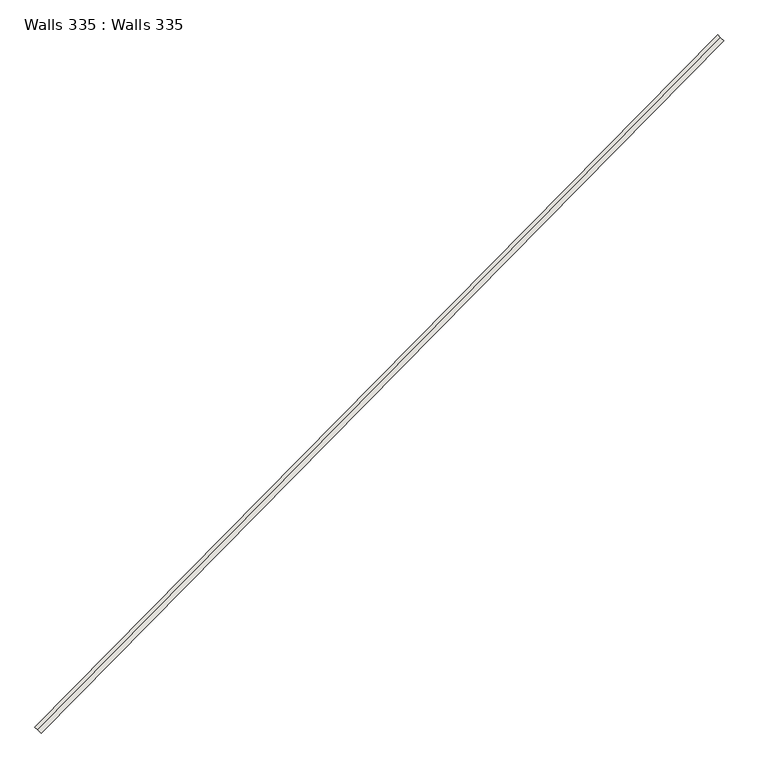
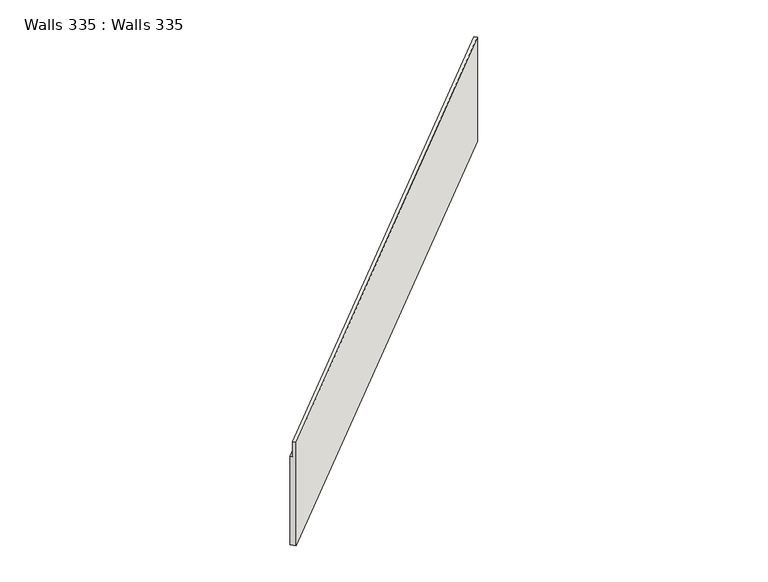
"""IFC4 building model written with IfcOpenShell, lengths in millimetres: wall geometry, Walls 335 : Walls 335."""

from ifc_helpers import new_model, si_unit, origin, place, context, project, spatial, faceted_brep, source, transform, mapped, element, save


def walls_335_walls_335_1387f121(model_context):
    return source(origin(), model_context, "Body", "Brep", [
        faceted_brep([(-131555.184553, -249185.200743, 636575.0), (-131555.184553, -249185.200743, 643515.0), (-131697.5254672, -249044.7049632, 643515.0), (-131697.5254672, -249044.7049632, 642515.0), (-131804.2811529, -248939.3331283, 642515.0), (-131804.2811529, -248939.3331283, 636575.0), (-103809.8875553, -221075.5240996, 636979.0), (-104058.9841551, -220829.656485, 636979.0), (-104058.9841551, -220829.656485, 642979.0), (-103952.2284695, -220935.0283198, 642979.0), (-103952.2284695, -220935.0283198, 643979.0), (-103809.8875553, -221075.5240996, 643979.0)], [[[0, 1, 2, 3, 4, 5]], [[6, 7, 8, 9, 10, 11]], [[6, 11, 1, 0]], [[11, 10, 2, 1]], [[10, 9, 3, 2]], [[9, 8, 4, 3]], [[8, 7, 5, 4]], [[7, 6, 0, 5]]]),
    ])


if __name__ == "__main__":
    model = new_model("IFC4")
    model_context = context("Model", 3, world=origin())
    ifc_project = project(units=[si_unit("LENGTHUNIT", "METRE", prefix="MILLI")], contexts=[model_context])
    site = spatial("IfcSite", under=ifc_project)
    building = spatial("IfcBuilding", under=site)
    placement = place(None, origin())
    walls_335_walls_335_shape = walls_335_walls_335_1387f121(model_context)
    element("IfcWall", 1, ObjectType="Walls 335 : Walls 335", at=placement, inside=building, context=model_context, shape_type="MappedRepresentation", body=[
        mapped(walls_335_walls_335_shape, transform((0.0, 0.0, 0.0), x_axis=(1.0, 0.0, 0.0), y_axis=(0.0, 1.0, 0.0), z_axis=(0.0, 0.0, 1.0))),
    ])
    save(model, "model.ifc")
